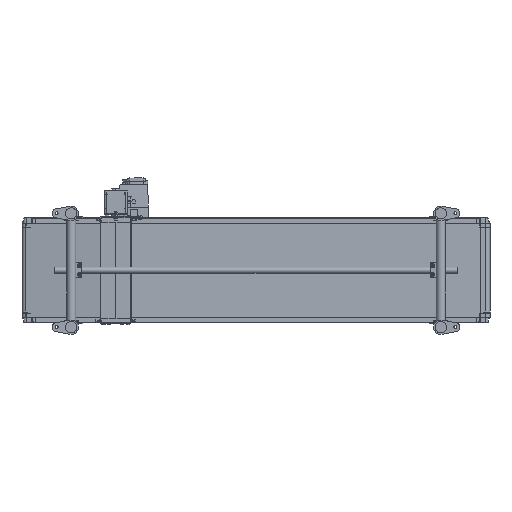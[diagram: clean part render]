
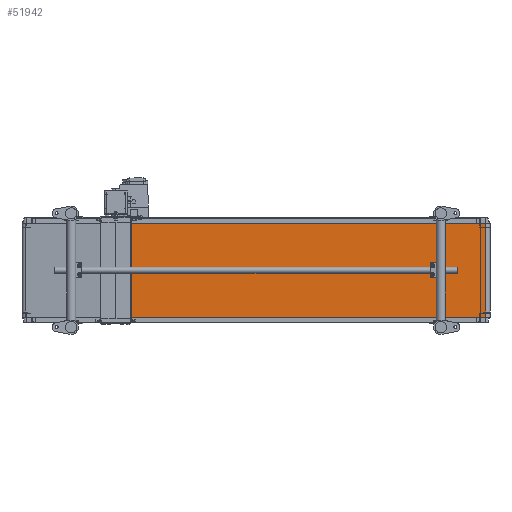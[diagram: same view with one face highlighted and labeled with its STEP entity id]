
A CAD part, front view. The second image highlights one B-rep face of the part: STEP entity #51942.
In plain terms, the highlighted planar face has unit normal (0.023, -1, 0).
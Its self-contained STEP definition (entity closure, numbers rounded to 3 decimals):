
#5040 = VECTOR ( 'NONE', #42385, 1000. ) ;
#6109 = VECTOR ( 'NONE', #81598, 1000. ) ;
#9942 = CARTESIAN_POINT ( 'NONE',  ( 1982.907, -34.195, -200. ) ) ;
#11646 = LINE ( 'NONE', #65767, #61580 ) ;
#13736 = LINE ( 'NONE', #9942, #5040 ) ;
#17766 = CARTESIAN_POINT ( 'NONE',  ( 1982.907, -34.195, -200. ) ) ;
#21510 = VERTEX_POINT ( 'NONE', #37773 ) ;
#24405 = CARTESIAN_POINT ( 'NONE',  ( 434.607, -70.005, 200. ) ) ;
#24410 = EDGE_CURVE ( 'NONE', #21510, #65618, #13736, .T. ) ;
#28440 = CARTESIAN_POINT ( 'NONE',  ( 434.607, -70.005, -200. ) ) ;
#28935 = ORIENTED_EDGE ( 'NONE', *, *, #24410, .T. ) ;
#35814 = DIRECTION ( 'NONE',  ( -1., -0.023, 0. ) ) ;
#36860 = VERTEX_POINT ( 'NONE', #24405 ) ;
#37773 = CARTESIAN_POINT ( 'NONE',  ( 1982.907, -34.195, -200. ) ) ;
#38557 = LINE ( 'NONE', #17766, #6109 ) ;
#42385 = DIRECTION ( 'NONE',  ( 0., 0., 1. ) ) ;
#44860 = LINE ( 'NONE', #92300, #48596 ) ;
#45970 = EDGE_CURVE ( 'NONE', #53215, #36860, #11646, .T. ) ;
#48596 = VECTOR ( 'NONE', #35814, 1000. ) ;
#51942 = ADVANCED_FACE ( 'NONE', ( #99035 ), #90515, .F. ) ;
#53215 = VERTEX_POINT ( 'NONE', #28440 ) ;
#57412 = AXIS2_PLACEMENT_3D ( 'NONE', #82542, #74212, #82205 ) ;
#61580 = VECTOR ( 'NONE', #72762, 1000. ) ;
#64157 = ORIENTED_EDGE ( 'NONE', *, *, #79373, .F. ) ;
#65618 = VERTEX_POINT ( 'NONE', #93506 ) ;
#65767 = CARTESIAN_POINT ( 'NONE',  ( 434.607, -70.005, -200. ) ) ;
#66233 = ORIENTED_EDGE ( 'NONE', *, *, #45970, .F. ) ;
#67521 = ORIENTED_EDGE ( 'NONE', *, *, #79440, .T. ) ;
#72762 = DIRECTION ( 'NONE',  ( 0., 0., 1. ) ) ;
#74212 = DIRECTION ( 'NONE',  ( -0.023, 1., 0. ) ) ;
#79373 = EDGE_CURVE ( 'NONE', #21510, #53215, #38557, .T. ) ;
#79440 = EDGE_CURVE ( 'NONE', #65618, #36860, #44860, .T. ) ;
#81598 = DIRECTION ( 'NONE',  ( -1., -0.023, 0. ) ) ;
#82205 = DIRECTION ( 'NONE',  ( 1., 0.023, 0. ) ) ;
#82542 = CARTESIAN_POINT ( 'NONE',  ( 1982.907, -34.195, -200. ) ) ;
#88729 = EDGE_LOOP ( 'NONE', ( #67521, #66233, #64157, #28935 ) ) ;
#90515 = PLANE ( 'NONE',  #57412 ) ;
#92300 = CARTESIAN_POINT ( 'NONE',  ( 1982.907, -34.195, 200. ) ) ;
#93506 = CARTESIAN_POINT ( 'NONE',  ( 1982.907, -34.195, 200. ) ) ;
#99035 = FACE_OUTER_BOUND ( 'NONE', #88729, .T. ) ;
